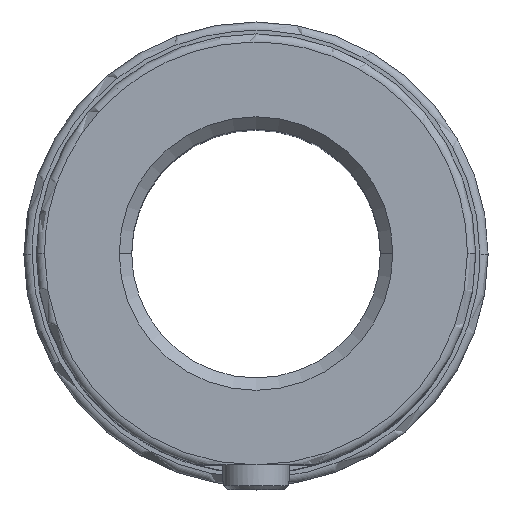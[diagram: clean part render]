
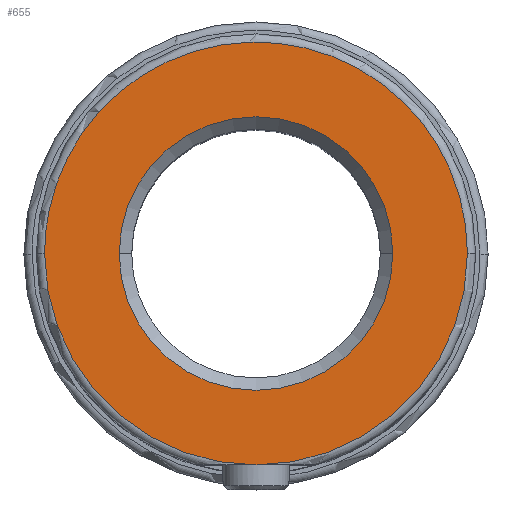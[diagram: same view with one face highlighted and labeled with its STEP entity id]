
A CAD part, top view. The second image highlights one B-rep face of the part: STEP entity #655.
In plain terms, the highlighted planar face has unit normal (0, 0, 1).
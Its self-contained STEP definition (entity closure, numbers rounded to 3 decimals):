
#303=CARTESIAN_POINT('Vertex',(0.,-25.5,45.)) ;
#419=CARTESIAN_POINT('Vertex',(-16.5,0.,45.)) ;
#422=CARTESIAN_POINT('Axis2P3D Location',(0.,0.,45.)) ;
#426=CARTESIAN_POINT('Vertex',(16.5,0.,45.)) ;
#514=CARTESIAN_POINT('Vertex',(25.5,0.,45.)) ;
#517=CARTESIAN_POINT('Axis2P3D Location',(0.,0.,45.)) ;
#538=CARTESIAN_POINT('Vertex',(-25.5,0.,45.)) ;
#541=CARTESIAN_POINT('Axis2P3D Location',(0.,0.,45.)) ;
#603=CARTESIAN_POINT('Axis2P3D Location',(0.,0.,45.)) ;
#615=CARTESIAN_POINT('Axis2P3D Location',(-16.5,0.,45.)) ;
#621=CARTESIAN_POINT('Control Point',(25.5,0.,45.)) ;
#622=CARTESIAN_POINT('Control Point',(25.5,2.474,45.)) ;
#623=CARTESIAN_POINT('Control Point',(25.2,4.948,45.)) ;
#624=CARTESIAN_POINT('Control Point',(24.6,7.373,45.)) ;
#625=CARTESIAN_POINT('Control Point',(22.824,12.03,45.)) ;
#626=CARTESIAN_POINT('Control Point',(19.986,16.127,45.)) ;
#627=CARTESIAN_POINT('Control Point',(18.324,17.993,45.)) ;
#628=CARTESIAN_POINT('Control Point',(14.582,21.284,45.)) ;
#629=CARTESIAN_POINT('Control Point',(10.161,23.585,45.)) ;
#630=CARTESIAN_POINT('Control Point',(7.821,24.461,45.)) ;
#631=CARTESIAN_POINT('Control Point',(2.975,25.628,45.)) ;
#632=CARTESIAN_POINT('Control Point',(-2.008,25.602,45.)) ;
#633=CARTESIAN_POINT('Control Point',(-4.487,25.286,45.)) ;
#634=CARTESIAN_POINT('Control Point',(-9.317,24.059,45.)) ;
#635=CARTESIAN_POINT('Control Point',(-13.714,21.713,45.)) ;
#636=CARTESIAN_POINT('Control Point',(-15.76,20.277,45.)) ;
#637=CARTESIAN_POINT('Control Point',(-19.46,16.939,45.)) ;
#638=CARTESIAN_POINT('Control Point',(-22.256,12.813,45.)) ;
#639=CARTESIAN_POINT('Control Point',(-23.396,10.59,45.)) ;
#640=CARTESIAN_POINT('Control Point',(-24.664,7.136,45.)) ;
#641=CARTESIAN_POINT('Control Point',(-25.296,3.532,45.)) ;
#642=CARTESIAN_POINT('Control Point',(-25.432,2.358,45.)) ;
#643=CARTESIAN_POINT('Control Point',(-25.5,1.179,45.)) ;
#644=CARTESIAN_POINT('Control Point',(-25.5,0.,45.)) ;
#423=DIRECTION('Axis2P3D Direction',(0.,-0.,1.)) ;
#518=DIRECTION('Axis2P3D Direction',(0.,-0.,1.)) ;
#542=DIRECTION('Axis2P3D Direction',(0.,-0.,1.)) ;
#604=DIRECTION('Axis2P3D Direction',(0.,-0.,1.)) ;
#616=DIRECTION('Axis2P3D Direction',(0.,0.,-1.)) ;
#617=DIRECTION('Axis2P3D XDirection',(-1.,0.,-0.)) ;
#424=AXIS2_PLACEMENT_3D('Circle Axis2P3D',#422,#423,$) ;
#519=AXIS2_PLACEMENT_3D('Circle Axis2P3D',#517,#518,$) ;
#543=AXIS2_PLACEMENT_3D('Circle Axis2P3D',#541,#542,$) ;
#605=AXIS2_PLACEMENT_3D('Circle Axis2P3D',#603,#604,$) ;
#618=AXIS2_PLACEMENT_3D('Plane Axis2P3D',#615,#616,#617) ;
#647=ORIENTED_EDGE('',*,*,#521,.T.) ;
#648=ORIENTED_EDGE('',*,*,#645,.T.) ;
#649=ORIENTED_EDGE('',*,*,#545,.T.) ;
#652=ORIENTED_EDGE('',*,*,#607,.F.) ;
#653=ORIENTED_EDGE('',*,*,#428,.F.) ;
#654=FACE_BOUND('',#651,.T.) ;
#655=ADVANCED_FACE('744-30 sol1',(#650,#654),#619,.F.) ;
#620=B_SPLINE_CURVE_WITH_KNOTS('',5,(#621,#622,#623,#624,#625,#626,#627,#628,#629,#630,#631,#632,#633,#634,#635,#636,#637,#638,#639,#640,#641,#642,#643,#644),.UNSPECIFIED.,.F.,.U.,(6,3,3,3,3,3,3,6),(0.,17.493,34.985,52.478,69.971,87.463,104.956,113.292),.UNSPECIFIED.) ;
#425=CIRCLE('generated circle',#424,16.5) ;
#520=CIRCLE('generated circle',#519,25.5) ;
#544=CIRCLE('generated circle',#543,25.5) ;
#606=CIRCLE('generated circle',#605,16.5) ;
#428=EDGE_CURVE('',#420,#427,#425,.T.) ;
#521=EDGE_CURVE('',#304,#515,#520,.T.) ;
#545=EDGE_CURVE('',#539,#304,#544,.T.) ;
#607=EDGE_CURVE('',#427,#420,#606,.T.) ;
#645=EDGE_CURVE('',#515,#539,#620,.T.) ;
#646=EDGE_LOOP('',(#647,#648,#649)) ;
#651=EDGE_LOOP('',(#652,#653)) ;
#650=FACE_OUTER_BOUND('',#646,.T.) ;
#619=PLANE('Plane',#618) ;
#304=VERTEX_POINT('',#303) ;
#420=VERTEX_POINT('',#419) ;
#427=VERTEX_POINT('',#426) ;
#515=VERTEX_POINT('',#514) ;
#539=VERTEX_POINT('',#538) ;
